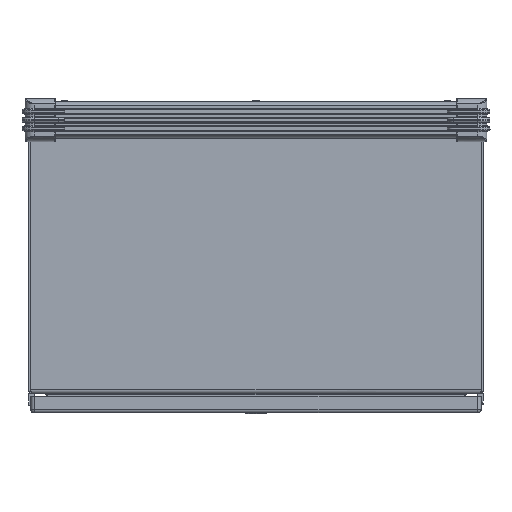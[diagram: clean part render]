
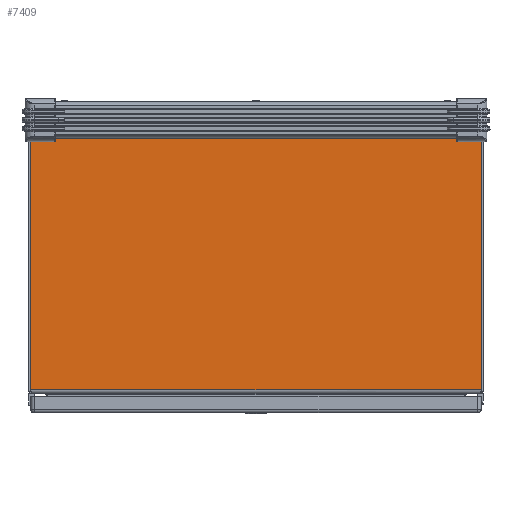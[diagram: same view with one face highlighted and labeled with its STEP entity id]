
A CAD part, left-side view. The second image highlights one B-rep face of the part: STEP entity #7409.
In plain terms, the highlighted planar face has unit normal (-1, 0, 0) as drawn and (1, 0, 0) by its records, which use the part's own axes.
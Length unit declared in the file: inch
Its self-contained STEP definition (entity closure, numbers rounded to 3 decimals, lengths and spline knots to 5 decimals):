
#5255 = ORIENTED_EDGE ( 'NONE', *, *, #58833, .F. ) ;
#5256 = ORIENTED_EDGE ( 'NONE', *, *, #59035, .F. ) ;
#5257 = ORIENTED_EDGE ( 'NONE', *, *, #58841, .F. ) ;
#5258 = ORIENTED_EDGE ( 'NONE', *, *, #59043, .F. ) ;
#5259 = ORIENTED_EDGE ( 'NONE', *, *, #58849, .F. ) ;
#5260 = ORIENTED_EDGE ( 'NONE', *, *, #59036, .F. ) ;
#5261 = ORIENTED_EDGE ( 'NONE', *, *, #59026, .T. ) ;
#5262 = ORIENTED_EDGE ( 'NONE', *, *, #59044, .F. ) ;
#5263 = ORIENTED_EDGE ( 'NONE', *, *, #58982, .T. ) ;
#5264 = ORIENTED_EDGE ( 'NONE', *, *, #59045, .T. ) ;
#7409 = ADVANCED_FACE ( 'NONE', ( #15235, #15240, #15242, #15244 ), #20973, .T. ) ;
#13736 = AXIS2_PLACEMENT_3D ( 'NONE', #20971, #20970, #20969 ) ;
#15235 = FACE_BOUND ( 'NONE', #69048, .T. ) ;
#15240 = FACE_BOUND ( 'NONE', #69028, .T. ) ;
#15242 = FACE_BOUND ( 'NONE', #69027, .T. ) ;
#15244 = FACE_OUTER_BOUND ( 'NONE', #69026, .T. ) ;
#20969 = DIRECTION ( 'NONE',  ( 0., 0., -1. ) ) ;
#20970 = DIRECTION ( 'NONE',  ( 1., 0., 0. ) ) ;
#20971 = CARTESIAN_POINT ( 'NONE',  ( 9.8435, -107.7855, 11.65 ) ) ;
#20973 = PLANE ( 'NONE',  #13736 ) ;
#28150 = CIRCLE ( 'NONE', #29205, 0.109 ) ;
#28168 = CIRCLE ( 'NONE', #29209, 0.109 ) ;
#28180 = CIRCLE ( 'NONE', #29213, 0.109 ) ;
#29205 = AXIS2_PLACEMENT_3D ( 'NONE', #40767, #41440, #41441 ) ;
#29209 = AXIS2_PLACEMENT_3D ( 'NONE', #41459, #41460, #41461 ) ;
#29213 = AXIS2_PLACEMENT_3D ( 'NONE', #41479, #41480, #41481 ) ;
#29280 = AXIS2_PLACEMENT_3D ( 'NONE', #42032, #42037, #42039 ) ;
#29284 = AXIS2_PLACEMENT_3D ( 'NONE', #42029, #42041, #42043 ) ;
#29285 = AXIS2_PLACEMENT_3D ( 'NONE', #42056, #42067, #42069 ) ;
#33768 = VERTEX_POINT ( 'NONE', #72941 ) ;
#33771 = VERTEX_POINT ( 'NONE', #72943 ) ;
#33817 = VERTEX_POINT ( 'NONE', #72969 ) ;
#33820 = VERTEX_POINT ( 'NONE', #72971 ) ;
#33971 = VERTEX_POINT ( 'NONE', #73062 ) ;
#33973 = VERTEX_POINT ( 'NONE', #73063 ) ;
#33985 = VERTEX_POINT ( 'NONE', #73070 ) ;
#33987 = VERTEX_POINT ( 'NONE', #73071 ) ;
#34000 = VERTEX_POINT ( 'NONE', #73079 ) ;
#34002 = VERTEX_POINT ( 'NONE', #73080 ) ;
#40767 = CARTESIAN_POINT ( 'NONE',  ( 9.8435, -7.2825, 0.553 ) ) ;
#41440 = DIRECTION ( 'NONE',  ( 1., 0., 0. ) ) ;
#41441 = DIRECTION ( 'NONE',  ( 0., 0., -1. ) ) ;
#41459 = CARTESIAN_POINT ( 'NONE',  ( 9.8435, 0., 0.553 ) ) ;
#41460 = DIRECTION ( 'NONE',  ( 1., 0., 0. ) ) ;
#41461 = DIRECTION ( 'NONE',  ( 0., 0., -1. ) ) ;
#41479 = CARTESIAN_POINT ( 'NONE',  ( 9.8435, 7.2825, 0.553 ) ) ;
#41480 = DIRECTION ( 'NONE',  ( 1., 0., 0. ) ) ;
#41481 = DIRECTION ( 'NONE',  ( 0., 0., -1. ) ) ;
#41815 = CARTESIAN_POINT ( 'NONE',  ( 9.8435, -9.27143, 11.65 ) ) ;
#41816 = DIRECTION ( 'NONE',  ( 0., 0., -1. ) ) ;
#41999 = CARTESIAN_POINT ( 'NONE',  ( 9.8435, 9.27143, 11.65 ) ) ;
#42000 = DIRECTION ( 'NONE',  ( 0., 0., 1. ) ) ;
#42029 = CARTESIAN_POINT ( 'NONE',  ( 9.8435, 7.2825, 0.553 ) ) ;
#42032 = CARTESIAN_POINT ( 'NONE',  ( 9.8435, -7.2825, 0.553 ) ) ;
#42037 = DIRECTION ( 'NONE',  ( 1., 0., 0. ) ) ;
#42039 = DIRECTION ( 'NONE',  ( 0., 0., -1. ) ) ;
#42041 = DIRECTION ( 'NONE',  ( 1., 0., 0. ) ) ;
#42043 = DIRECTION ( 'NONE',  ( 0., 0., -1. ) ) ;
#42051 = CARTESIAN_POINT ( 'NONE',  ( 9.8435, -107.7855, 0.132 ) ) ;
#42056 = CARTESIAN_POINT ( 'NONE',  ( 9.8435, 0., 0.553 ) ) ;
#42067 = DIRECTION ( 'NONE',  ( 1., 0., 0. ) ) ;
#42069 = DIRECTION ( 'NONE',  ( 0., 0., -1. ) ) ;
#42071 = CARTESIAN_POINT ( 'NONE',  ( 9.8435, -107.7855, 11.65 ) ) ;
#42072 = DIRECTION ( 'NONE',  ( 0., 1., 0. ) ) ;
#42078 = DIRECTION ( 'NONE',  ( 0., 1., 0. ) ) ;
#42526 = LINE ( 'NONE', #41815, #42528 ) ;
#42528 = VECTOR ( 'NONE', #41816, 39.37008 ) ;
#42688 = LINE ( 'NONE', #41999, #42707 ) ;
#42707 = VECTOR ( 'NONE', #42000, 39.37008 ) ;
#42724 = LINE ( 'NONE', #42071, #42750 ) ;
#42750 = VECTOR ( 'NONE', #42072, 39.37008 ) ;
#42755 = CIRCLE ( 'NONE', #29280, 0.109 ) ;
#42761 = CIRCLE ( 'NONE', #29284, 0.109 ) ;
#42793 = LINE ( 'NONE', #42051, #42799 ) ;
#42796 = CIRCLE ( 'NONE', #29285, 0.109 ) ;
#42799 = VECTOR ( 'NONE', #42078, 39.37008 ) ;
#58833 = EDGE_CURVE ( 'NONE', #34002, #34000, #28150, .T. ) ;
#58841 = EDGE_CURVE ( 'NONE', #33987, #33985, #28168, .T. ) ;
#58849 = EDGE_CURVE ( 'NONE', #33973, #33971, #28180, .T. ) ;
#58982 = EDGE_CURVE ( 'NONE', #33817, #33820, #42526, .T. ) ;
#59026 = EDGE_CURVE ( 'NONE', #33768, #33771, #42688, .T. ) ;
#59035 = EDGE_CURVE ( 'NONE', #34000, #34002, #42755, .T. ) ;
#59036 = EDGE_CURVE ( 'NONE', #33971, #33973, #42761, .T. ) ;
#59043 = EDGE_CURVE ( 'NONE', #33985, #33987, #42796, .T. ) ;
#59044 = EDGE_CURVE ( 'NONE', #33817, #33771, #42724, .T. ) ;
#59045 = EDGE_CURVE ( 'NONE', #33820, #33768, #42793, .T. ) ;
#69026 = EDGE_LOOP ( 'NONE', ( #5261, #5262, #5263, #5264 ) ) ;
#69027 = EDGE_LOOP ( 'NONE', ( #5259, #5260 ) ) ;
#69028 = EDGE_LOOP ( 'NONE', ( #5257, #5258 ) ) ;
#69048 = EDGE_LOOP ( 'NONE', ( #5255, #5256 ) ) ;
#72941 = CARTESIAN_POINT ( 'NONE',  ( 9.8435, 9.27143, 0.132 ) ) ;
#72943 = CARTESIAN_POINT ( 'NONE',  ( 9.8435, 9.27143, 11.65 ) ) ;
#72969 = CARTESIAN_POINT ( 'NONE',  ( 9.8435, -9.27143, 11.65 ) ) ;
#72971 = CARTESIAN_POINT ( 'NONE',  ( 9.8435, -9.27143, 0.132 ) ) ;
#73062 = CARTESIAN_POINT ( 'NONE',  ( 9.8435, 7.2825, 0.444 ) ) ;
#73063 = CARTESIAN_POINT ( 'NONE',  ( 9.8435, 7.2825, 0.662 ) ) ;
#73070 = CARTESIAN_POINT ( 'NONE',  ( 9.8435, 0., 0.444 ) ) ;
#73071 = CARTESIAN_POINT ( 'NONE',  ( 9.8435, 0., 0.662 ) ) ;
#73079 = CARTESIAN_POINT ( 'NONE',  ( 9.8435, -7.2825, 0.444 ) ) ;
#73080 = CARTESIAN_POINT ( 'NONE',  ( 9.8435, -7.2825, 0.662 ) ) ;
